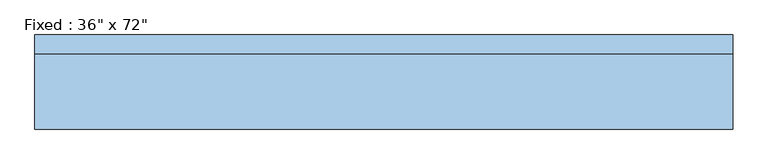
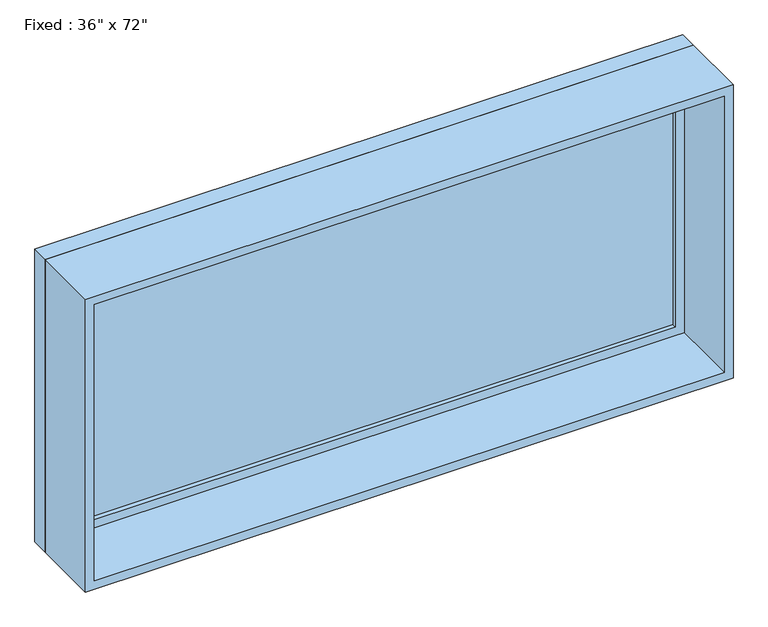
"""IFC4 building model written with IfcOpenShell, lengths in millimetres: window geometry."""

from ifc_helpers import new_model, si_unit, frame, origin, place, context, project, spatial, polyline, outline, extrude, source, transform, mapped, element, save


def window_746a537f(model_context):
    return source(origin(), model_context, "Body", "SweptSolid", [
        extrude(outline(polyline([(1048.4, 106.425), (-1124.6, 106.425), (-1124.6, 119.125), (1048.4, 119.125), (1048.4, 106.425)])), frame((0.0, 0.0, 663.5), z_axis=(0.0, 0.0, 1.0), x_axis=(1.0, 0.0, 0.0)), (0.0, 0.0, 1.0), 973.0),
        extrude(outline(polyline([(1680.95, -1169.05), (619.05, -1169.05), (619.05, 1092.85), (1680.95, 1092.85), (1680.95, -1169.05)]), holes=[polyline([(1636.5, -1124.6), (1636.5, 1048.4), (663.5, 1048.4), (663.5, -1124.6), (1636.5, -1124.6)])]), frame((0.0, 90.55, 0.0), z_axis=(0.0, 1.0, 0.0), x_axis=(0.0, 0.0, 1.0)), (0.0, 0.0, 1.0), 44.45),
        extrude(outline(polyline([(1700.0, -1188.1), (600.0, -1188.1), (600.0, 1111.9), (1700.0, 1111.9), (1700.0, -1188.1)]), holes=[polyline([(1668.25, -1156.35), (1668.25, 1080.15), (631.75, 1080.15), (631.75, -1156.35), (1668.25, -1156.35)])]), frame((0.0, -155.0, 0.0), z_axis=(0.0, 1.0, 0.0), x_axis=(0.0, 0.0, 1.0)), (0.0, 0.0, 1.0), 245.55),
        extrude(outline(polyline([(1700.0, 1111.9), (1700.0, -1188.1), (600.0, -1188.1), (600.0, 1111.9), (1700.0, 1111.9)]), holes=[polyline([(1680.95, 1092.85), (619.05, 1092.85), (619.05, -1169.05), (1680.95, -1169.05), (1680.95, 1092.85)])]), frame((0.0, 90.55, 0.0), z_axis=(0.0, 1.0, 0.0), x_axis=(0.0, 0.0, 1.0)), (0.0, 0.0, 1.0), 64.45),
    ])


if __name__ == "__main__":
    model = new_model("IFC4")
    model_context = context("Model", 3, world=origin())
    ifc_project = project(units=[si_unit("LENGTHUNIT", "METRE", prefix="MILLI")], contexts=[model_context])
    site = spatial("IfcSite", under=ifc_project)
    building = spatial("IfcBuilding", under=site)
    placement = place(None, origin())
    window_shape = window_746a537f(model_context)
    element("IfcWindow", 1, ObjectType="Fixed : 36\" x 72\"", at=placement, inside=building, context=model_context, shape_type="MappedRepresentation", body=[
        mapped(window_shape, transform((0.0, 0.0, 0.0), x_axis=(1.0, 0.0, 0.0), y_axis=(0.0, 1.0, 0.0), z_axis=(0.0, 0.0, 1.0))),
    ])
    save(model, "model.ifc")
